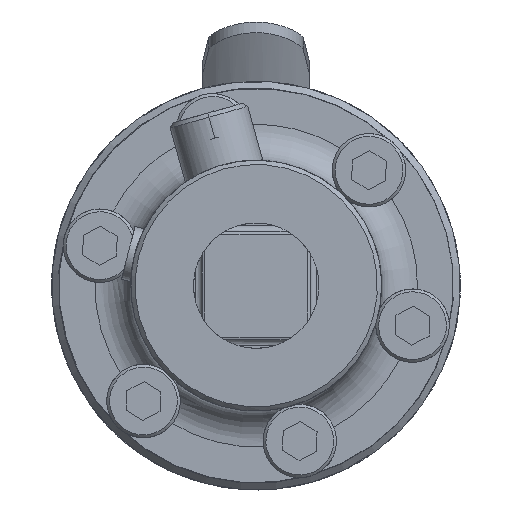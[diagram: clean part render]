
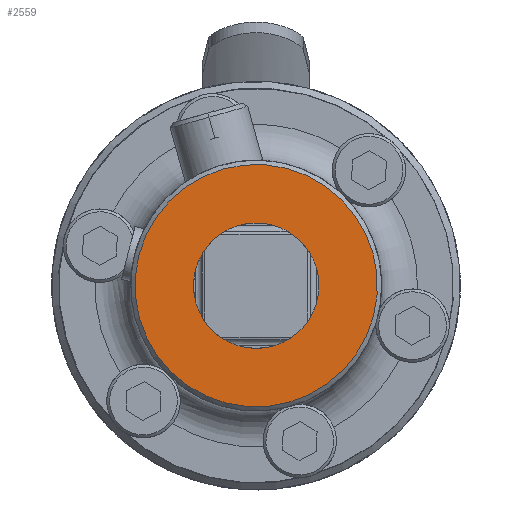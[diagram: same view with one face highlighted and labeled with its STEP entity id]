
A CAD part, left-side view. The second image highlights one B-rep face of the part: STEP entity #2559.
In plain terms, the highlighted planar face has unit normal (-1, 0, 0).
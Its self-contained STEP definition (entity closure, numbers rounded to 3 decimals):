
#1766=PLANE('',#10486);
#1977=FACE_OUTER_BOUND('',#3668,.T.);
#2559=ADVANCED_FACE('',(#3398,#1977),#1766,.T.);
#3398=FACE_BOUND('',#3667,.T.);
#3667=EDGE_LOOP('',(#4621));
#3668=EDGE_LOOP('',(#4622));
#4621=ORIENTED_EDGE('',*,*,#8573,.F.);
#4622=ORIENTED_EDGE('',*,*,#8574,.T.);
#7557=VERTEX_POINT('',#14608);
#7558=VERTEX_POINT('',#14610);
#8573=EDGE_CURVE('',#7557,#7557,#9984,.T.);
#8574=EDGE_CURVE('',#7558,#7558,#9985,.T.);
#9984=CIRCLE('',#10484,11.093);
#9985=CIRCLE('',#10485,21.463);
#10484=AXIS2_PLACEMENT_3D('',#14607,#11690,#11691);
#10485=AXIS2_PLACEMENT_3D('',#14609,#11692,#11693);
#10486=AXIS2_PLACEMENT_3D('',#14611,#11694,#11695);
#11690=DIRECTION('',(-1.,0.,0.));
#11691=DIRECTION('',(0.,0.,1.));
#11692=DIRECTION('',(-1.,0.,0.));
#11693=DIRECTION('',(0.,0.969,0.248));
#11694=DIRECTION('',(-1.,0.,0.));
#11695=DIRECTION('',(0.,0.969,0.248));
#14607=CARTESIAN_POINT('',(-333.858,-0.038,0.));
#14608=CARTESIAN_POINT('',(-333.858,-0.038,11.094));
#14609=CARTESIAN_POINT('',(-333.858,-0.038,0.));
#14610=CARTESIAN_POINT('',(-333.858,20.756,5.318));
#14611=CARTESIAN_POINT('',(-333.858,-0.038,0.));
